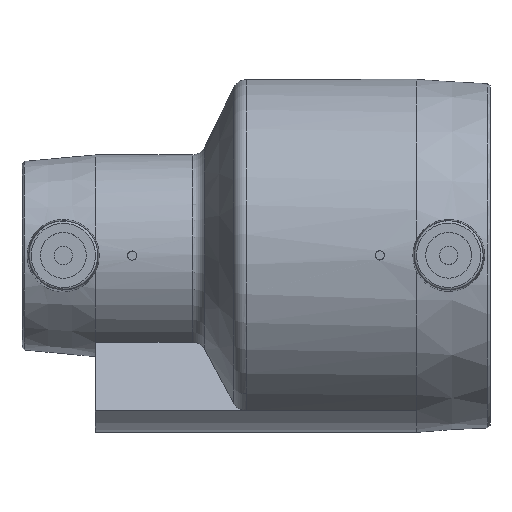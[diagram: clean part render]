
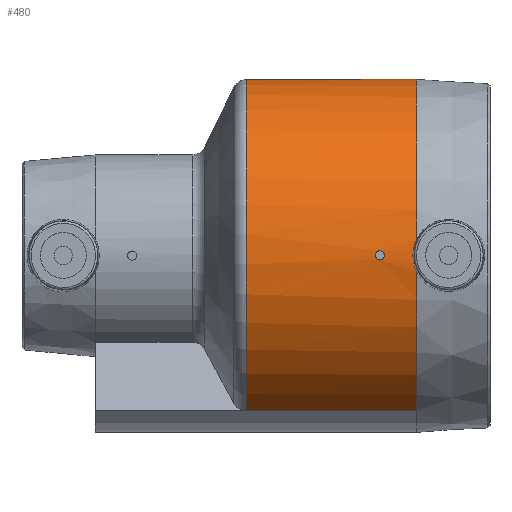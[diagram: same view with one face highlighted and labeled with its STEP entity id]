
A CAD part, top view. The second image highlights one B-rep face of the part: STEP entity #480.
In plain terms, the highlighted cylindrical face has radius 38.5 mm (diameter 77 mm), a partial arc.
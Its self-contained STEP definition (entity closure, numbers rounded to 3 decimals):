
#47=CIRCLE('',#533,38.5);
#48=CIRCLE('',#534,38.5);
#49=CIRCLE('',#535,38.5);
#85=LINE('',#790,#96);
#86=LINE('',#803,#97);
#96=VECTOR('',#613,1000.);
#97=VECTOR('',#618,1000.);
#107=ORIENTED_EDGE('',*,*,#223,.T.);
#108=ORIENTED_EDGE('',*,*,#224,.F.);
#109=ORIENTED_EDGE('',*,*,#225,.T.);
#110=ORIENTED_EDGE('',*,*,#226,.F.);
#111=ORIENTED_EDGE('',*,*,#227,.T.);
#112=ORIENTED_EDGE('',*,*,#228,.F.);
#113=ORIENTED_EDGE('',*,*,#229,.T.);
#223=EDGE_CURVE('',#281,#281,#327,.T.);
#224=EDGE_CURVE('',#282,#283,#85,.T.);
#225=EDGE_CURVE('',#282,#284,#47,.T.);
#226=EDGE_CURVE('',#285,#284,#328,.T.);
#227=EDGE_CURVE('',#285,#286,#48,.T.);
#228=EDGE_CURVE('',#287,#286,#86,.F.);
#229=EDGE_CURVE('',#287,#283,#49,.T.);
#281=VERTEX_POINT('',#789);
#282=VERTEX_POINT('',#791);
#283=VERTEX_POINT('',#792);
#284=VERTEX_POINT('',#794);
#285=VERTEX_POINT('',#800);
#286=VERTEX_POINT('',#802);
#287=VERTEX_POINT('',#804);
#327=B_SPLINE_CURVE_WITH_KNOTS('',3,(#778,#779,#780,#781,#782,#783,#784,
#785,#786,#787,#788),.UNSPECIFIED.,.T.,.F.,(1,1,1,1,1,1,1,1,1,1,1,1,1,1,
1),(-0.002,-0.002,-0.001,0.,
0.001,0.002,0.002,0.003,
0.004,0.005,0.005,0.006,
0.007,0.008,0.009),
 .UNSPECIFIED.);
#328=B_SPLINE_CURVE_WITH_KNOTS('',3,(#795,#796,#797,#798,#799),
 .UNSPECIFIED.,.F.,.F.,(4,1,4),(0.,0.004,
0.007),.UNSPECIFIED.);
#336=EDGE_LOOP('',(#107));
#337=EDGE_LOOP('',(#108,#109,#110,#111,#112,#113));
#402=FACE_BOUND('',#336,.T.);
#403=FACE_BOUND('',#337,.T.);
#468=CYLINDRICAL_SURFACE('',#532,38.5);
#480=ADVANCED_FACE('',(#402,#403),#468,.T.);
#532=AXIS2_PLACEMENT_3D('',#777,#611,#612);
#533=AXIS2_PLACEMENT_3D('',#793,#614,#615);
#534=AXIS2_PLACEMENT_3D('',#801,#616,#617);
#535=AXIS2_PLACEMENT_3D('',#805,#619,#620);
#611=DIRECTION('',(-1.,0.,0.));
#612=DIRECTION('',(0.,0.,1.));
#613=DIRECTION('',(-1.,0.,0.));
#614=DIRECTION('',(-1.,0.,0.));
#615=DIRECTION('',(0.,0.,1.));
#616=DIRECTION('',(-1.,0.,0.));
#617=DIRECTION('',(0.,0.,1.));
#618=DIRECTION('',(-1.,0.,0.));
#619=DIRECTION('',(1.,0.,0.));
#620=DIRECTION('',(0.,0.,-1.));
#777=CARTESIAN_POINT('',(-60.,0.,0.));
#778=CARTESIAN_POINT('',(35.783,0.785,38.493));
#779=CARTESIAN_POINT('',(36.108,0.,38.503));
#780=CARTESIAN_POINT('',(35.783,-0.784,38.494));
#781=CARTESIAN_POINT('',(35.001,-1.108,38.484));
#782=CARTESIAN_POINT('',(34.217,-0.784,38.493));
#783=CARTESIAN_POINT('',(33.892,0.,38.503));
#784=CARTESIAN_POINT('',(34.216,0.783,38.494));
#785=CARTESIAN_POINT('',(34.999,1.108,38.484));
#786=CARTESIAN_POINT('',(35.783,0.785,38.493));
#787=CARTESIAN_POINT('',(36.108,0.,38.503));
#788=CARTESIAN_POINT('',(35.783,-0.784,38.494));
#789=CARTESIAN_POINT('',(36.,0.,38.5));
#790=CARTESIAN_POINT('',(-60.,-33.822,18.394));
#791=CARTESIAN_POINT('',(43.,-33.822,18.394));
#792=CARTESIAN_POINT('',(5.879,-33.822,18.394));
#793=CARTESIAN_POINT('',(43.,0.,0.));
#794=CARTESIAN_POINT('',(43.,-3.479,38.342));
#795=CARTESIAN_POINT('',(43.,3.479,38.342));
#796=CARTESIAN_POINT('',(42.463,2.396,38.441));
#797=CARTESIAN_POINT('',(41.908,0.005,38.559));
#798=CARTESIAN_POINT('',(42.463,-2.396,38.441));
#799=CARTESIAN_POINT('',(43.,-3.479,38.342));
#800=CARTESIAN_POINT('',(43.,3.479,38.342));
#801=CARTESIAN_POINT('',(43.,0.,0.));
#802=CARTESIAN_POINT('',(43.,-38.5,0.));
#803=CARTESIAN_POINT('',(-60.,-38.5,0.));
#804=CARTESIAN_POINT('',(5.879,-38.5,0.));
#805=CARTESIAN_POINT('',(5.879,0.,0.));
